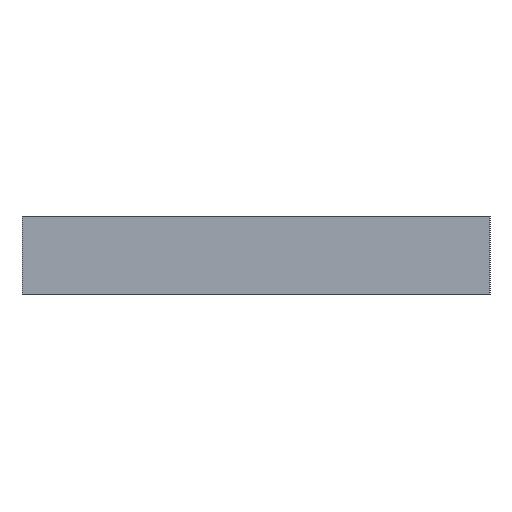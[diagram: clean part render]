
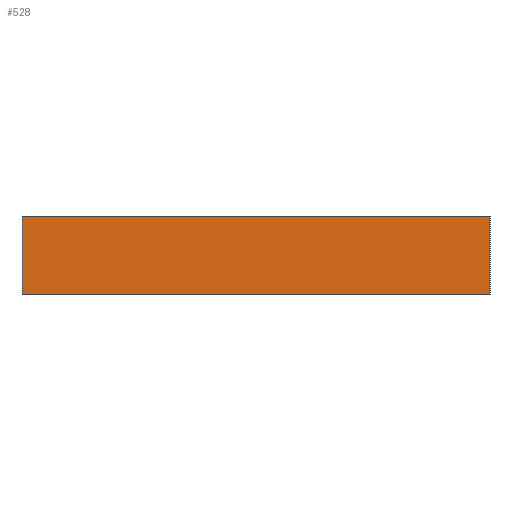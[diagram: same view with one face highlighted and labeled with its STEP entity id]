
A CAD part, left-side view. The second image highlights one B-rep face of the part: STEP entity #528.
In plain terms, the highlighted planar face has unit normal (-1, 0, 0).
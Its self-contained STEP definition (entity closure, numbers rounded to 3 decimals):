
#223=CARTESIAN_POINT('Vertex',(-21.,-6.,0.)) ;
#226=CARTESIAN_POINT('Line Origine',(-21.,0.,0.)) ;
#230=CARTESIAN_POINT('Vertex',(-21.,6.,0.)) ;
#324=CARTESIAN_POINT('Vertex',(-21.,6.,2.)) ;
#327=CARTESIAN_POINT('Line Origine',(-21.,0.,2.)) ;
#331=CARTESIAN_POINT('Vertex',(-21.,-6.,2.)) ;
#500=CARTESIAN_POINT('Line Origine',(-21.,6.,1.)) ;
#512=CARTESIAN_POINT('Axis2P3D Location',(-21.,6.,0.)) ;
#517=CARTESIAN_POINT('Line Origine',(-21.,-6.,1.)) ;
#227=DIRECTION('Vector Direction',(0.,-1.,0.)) ;
#328=DIRECTION('Vector Direction',(0.,-1.,0.)) ;
#501=DIRECTION('Vector Direction',(0.,0.,1.)) ;
#513=DIRECTION('Axis2P3D Direction',(-1.,0.,0.)) ;
#514=DIRECTION('Axis2P3D XDirection',(0.,-1.,0.)) ;
#518=DIRECTION('Vector Direction',(0.,0.,1.)) ;
#515=AXIS2_PLACEMENT_3D('Plane Axis2P3D',#512,#513,#514) ;
#523=ORIENTED_EDGE('',*,*,#504,.F.) ;
#524=ORIENTED_EDGE('',*,*,#232,.T.) ;
#525=ORIENTED_EDGE('',*,*,#521,.T.) ;
#526=ORIENTED_EDGE('',*,*,#333,.F.) ;
#228=VECTOR('Line Direction',#227,1.) ;
#329=VECTOR('Line Direction',#328,1.) ;
#502=VECTOR('Line Direction',#501,1.) ;
#519=VECTOR('Line Direction',#518,1.) ;
#528=ADVANCED_FACE('PartBody',(#527),#516,.T.) ;
#232=EDGE_CURVE('',#231,#224,#229,.T.) ;
#333=EDGE_CURVE('',#325,#332,#330,.T.) ;
#504=EDGE_CURVE('',#231,#325,#503,.T.) ;
#521=EDGE_CURVE('',#224,#332,#520,.T.) ;
#522=EDGE_LOOP('',(#523,#524,#525,#526)) ;
#527=FACE_OUTER_BOUND('',#522,.T.) ;
#229=LINE('Line',#226,#228) ;
#330=LINE('Line',#327,#329) ;
#503=LINE('Line',#500,#502) ;
#520=LINE('Line',#517,#519) ;
#516=PLANE('Plane',#515) ;
#224=VERTEX_POINT('',#223) ;
#231=VERTEX_POINT('',#230) ;
#325=VERTEX_POINT('',#324) ;
#332=VERTEX_POINT('',#331) ;
